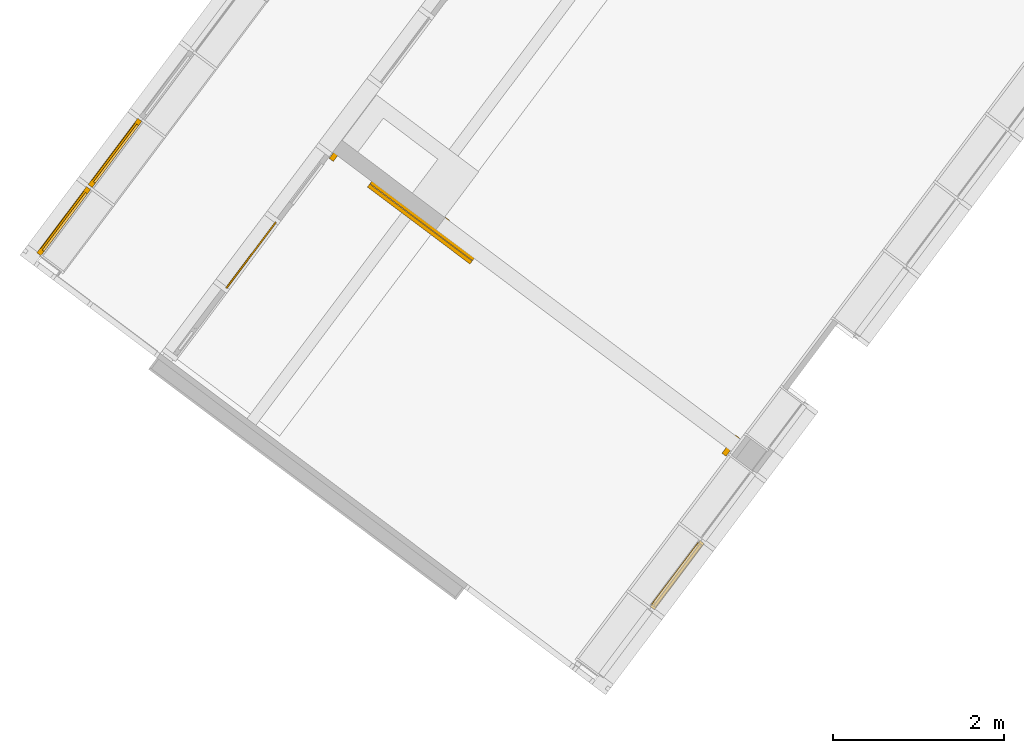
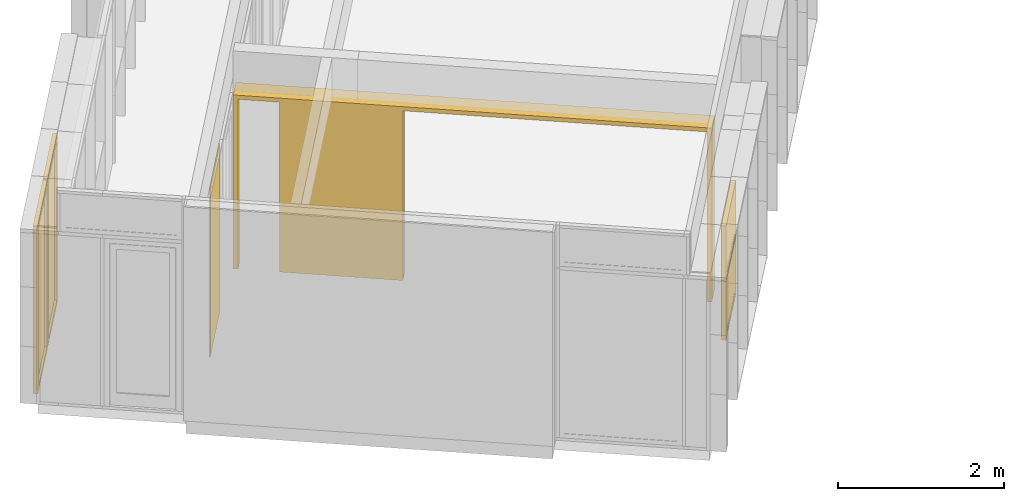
# One storey, part 178 of 243: 5 windows, 1 door, 3 elements without a shape of their own.
"""IFC2X3 building model written with IfcOpenShell, lengths in metres."""

from ifc_helpers import new_model, entity, si_unit, converted_unit, derived_unit, direction, frame, frame_2d, origin, origin_2d_with_axis, place, context, subcontext, project, spatial, polyline, rectangle, outline, extrude, faceted_brep, source, transform, mapped, material, material_list, type_object, type_shapes, element, aggregate, save


model = new_model("IFC2X3")

# Units and contexts
model_context = context("Model", 3, precision=1e-05, world=origin(), true_north=direction((6.123031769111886e-17, 1.0)))
body_context = subcontext(model_context, "Body", "Model", "MODEL_VIEW")
ifc_project = project(units=[si_unit("LENGTHUNIT", "METRE"), si_unit("AREAUNIT", "SQUARE_METRE"), si_unit("VOLUMEUNIT", "CUBIC_METRE"), converted_unit("PLANEANGLEUNIT", "DEGREE", entity("IfcRatioMeasure", 0.017453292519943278), si_unit("PLANEANGLEUNIT", "RADIAN"), dimensions=[0, 0, 0, 0, 0, 0, 0]), si_unit("MASSUNIT", "GRAM", prefix="KILO"), derived_unit("MASSDENSITYUNIT", [(si_unit("MASSUNIT", "GRAM", prefix="KILO"), 1), (si_unit("LENGTHUNIT", "METRE"), -3)]), derived_unit("IONCONCENTRATIONUNIT", [(si_unit("MASSUNIT", "GRAM", prefix="KILO"), 1), (si_unit("LENGTHUNIT", "METRE"), -3)]), derived_unit("MOMENTOFINERTIAUNIT", [(si_unit("LENGTHUNIT", "METRE"), 4)]), si_unit("TIMEUNIT", "SECOND"), si_unit("FREQUENCYUNIT", "HERTZ"), si_unit("THERMODYNAMICTEMPERATUREUNIT", "DEGREE_CELSIUS"), derived_unit("THERMALTRANSMITTANCEUNIT", [(si_unit("MASSUNIT", "GRAM", prefix="KILO"), 1), (si_unit("THERMODYNAMICTEMPERATUREUNIT", "KELVIN"), -1), (si_unit("TIMEUNIT", "SECOND"), -3)]), derived_unit("THERMALCONDUCTANCEUNIT", [(si_unit("MASSUNIT", "GRAM", prefix="KILO"), 1), (si_unit("THERMODYNAMICTEMPERATUREUNIT", "KELVIN"), -1), (si_unit("TIMEUNIT", "SECOND"), -3), (si_unit("LENGTHUNIT", "METRE"), 1)]), derived_unit("VOLUMETRICFLOWRATEUNIT", [(si_unit("LENGTHUNIT", "METRE"), 3), (si_unit("TIMEUNIT", "SECOND"), -1)]), derived_unit("MASSFLOWRATEUNIT", [(si_unit("MASSUNIT", "GRAM", prefix="KILO"), 1), (si_unit("TIMEUNIT", "SECOND"), -1)]), derived_unit("ROTATIONALFREQUENCYUNIT", [(si_unit("TIMEUNIT", "SECOND"), -1)]), si_unit("ELECTRICCURRENTUNIT", "AMPERE"), si_unit("ELECTRICVOLTAGEUNIT", "VOLT"), si_unit("POWERUNIT", "WATT"), si_unit("FORCEUNIT", "NEWTON", prefix="KILO"), si_unit("ILLUMINANCEUNIT", "LUX"), si_unit("LUMINOUSFLUXUNIT", "LUMEN"), si_unit("LUMINOUSINTENSITYUNIT", "CANDELA"), derived_unit("USERDEFINED", [(si_unit("MASSUNIT", "GRAM", prefix="KILO"), -1), (si_unit("LENGTHUNIT", "METRE"), -2), (si_unit("TIMEUNIT", "SECOND"), 3), (si_unit("LUMINOUSFLUXUNIT", "LUMEN"), 1)]), derived_unit("USERDEFINED", [(si_unit("MASSUNIT", "GRAM", prefix="KILO"), 1), (si_unit("TIMEUNIT", "SECOND"), -3), (si_unit("LENGTHUNIT", "METRE"), 3), (si_unit("ELECTRICCURRENTUNIT", "AMPERE"), -2)]), derived_unit("SOUNDPOWERUNIT", [(si_unit("MASSUNIT", "GRAM", prefix="KILO"), 1), (si_unit("TIMEUNIT", "SECOND"), -3), (si_unit("LENGTHUNIT", "METRE"), 2)]), derived_unit("SOUNDPRESSUREUNIT", [(si_unit("MASSUNIT", "GRAM", prefix="KILO"), 1), (si_unit("LENGTHUNIT", "METRE"), -1), (si_unit("TIMEUNIT", "SECOND"), -2)]), derived_unit("LINEARVELOCITYUNIT", [(si_unit("LENGTHUNIT", "METRE"), 1), (si_unit("TIMEUNIT", "SECOND"), -1)]), si_unit("PRESSUREUNIT", "PASCAL"), derived_unit("USERDEFINED", [(si_unit("MASSUNIT", "GRAM", prefix="KILO"), 1), (si_unit("LENGTHUNIT", "METRE"), -2), (si_unit("TIMEUNIT", "SECOND"), -2)]), derived_unit("LINEARFORCEUNIT", [(si_unit("MASSUNIT", "GRAM", prefix="KILO"), 1), (si_unit("TIMEUNIT", "SECOND"), -2)]), derived_unit("PLANARFORCEUNIT", [(si_unit("MASSUNIT", "GRAM", prefix="KILO"), 1), (si_unit("LENGTHUNIT", "METRE"), -1), (si_unit("TIMEUNIT", "SECOND"), -2)]), derived_unit("SPECIFICHEATCAPACITYUNIT", [(si_unit("THERMODYNAMICTEMPERATUREUNIT", "KELVIN"), -1), (si_unit("LENGTHUNIT", "METRE"), 2), (si_unit("TIMEUNIT", "SECOND"), -2)]), derived_unit("HEATINGVALUEUNIT", [(si_unit("LENGTHUNIT", "METRE"), 2), (si_unit("TIMEUNIT", "SECOND"), -2)]), derived_unit("VAPORPERMEABILITYUNIT", [(si_unit("LENGTHUNIT", "METRE"), -1), (si_unit("TIMEUNIT", "SECOND"), 1)]), derived_unit("DYNAMICVISCOSITYUNIT", [(si_unit("MASSUNIT", "GRAM", prefix="KILO"), 1), (si_unit("TIMEUNIT", "SECOND"), -1), (si_unit("LENGTHUNIT", "METRE"), -1)]), derived_unit("THERMALEXPANSIONCOEFFICIENTUNIT", [(si_unit("THERMODYNAMICTEMPERATUREUNIT", "KELVIN"), -1)]), derived_unit("MODULUSOFELASTICITYUNIT", [(si_unit("MASSUNIT", "GRAM", prefix="KILO"), 1), (si_unit("LENGTHUNIT", "METRE"), -1), (si_unit("TIMEUNIT", "SECOND"), -2)]), derived_unit("ISOTHERMALMOISTURECAPACITYUNIT", [(si_unit("LENGTHUNIT", "METRE"), 3), (si_unit("MASSUNIT", "GRAM", prefix="KILO"), -1)]), derived_unit("MOISTUREDIFFUSIVITYUNIT", [(si_unit("TIMEUNIT", "SECOND"), -1), (si_unit("LENGTHUNIT", "METRE"), 2)])], contexts=[model_context])

# Site, building, storey
site_placement = place(None, frame((0.0, 0.0, 235.0), z_axis=(0.0, 0.0, 1.0), x_axis=(-0.7996477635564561, 0.6004693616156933, 0.0)))
site = spatial("IfcSite", under=ifc_project, at=site_placement, Name="Default", CompositionType="ELEMENT")
building_placement = place(site_placement, origin())
building = spatial("IfcBuilding", under=site, at=building_placement, CompositionType="ELEMENT")
storey_placement = place(building_placement, origin())
storey = spatial("IfcBuildingStorey", under=building, at=storey_placement, Name="P0- Escola", CompositionType="ELEMENT", Elevation=0.0)

# Curtain wall, window
curtain_wall_type_1 = type_object("IfcCurtainWallType", Name="Muro cortina:MC- INT- a1", PredefinedType="NOTDEFINED")
curtain_wall_1_placement = place(storey_placement, origin())
curtain_wall_1 = element("IfcCurtainWall", 1, at=curtain_wall_1_placement, inside=storey, type_object=curtain_wall_type_1, Name="Muro cortina:MC- INT- a1", ObjectType="Muro cortina:MC- INT- a1")
ifc_material_1 = material(Name="_Vidre")
window_style_1 = type_object("IfcWindowStyle", Name="MC- Fusta- vidre fix:MC- Fusta- vidre fix", ConstructionType="NOTDEFINED", OperationType="NOTDEFINED", ParameterTakesPrecedence=False, Sizeable=False, material=ifc_material_1)
shared_shape_1 = source(origin(), body_context, "Body", "SweptSolid", [
    extrude(rectangle(XDim=0.9699999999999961, YDim=0.015999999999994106, at=origin_2d_with_axis()), frame((0.0, 0.0, 0.0), z_axis=(0.0, 0.0, 1.0), x_axis=(-1.0, 0.0, 0.0)), (0.0, 0.0, 1.0), 2.475),
])
type_shapes(window_style_1, [shared_shape_1])
window_1_placement = place(curtain_wall_1_placement, frame((72.72014768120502, -21.915189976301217, 0.045000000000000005), z_axis=(0.0, 0.0, 1.0), x_axis=(0.0, -1.0, 0.0)))
window_1 = element("IfcWindow", 2, at=window_1_placement, type_object=window_style_1, material=ifc_material_1, Name="MC- Fusta- vidre fix:MC- Fusta- vidre fix", ObjectType="MC- Fusta- vidre fix:MC- Fusta- vidre fix", OverallHeight=2.475, OverallWidth=0.9699999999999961, context=body_context, shape_type="MappedRepresentation", body=[
    mapped(shared_shape_1, transform((0.0, 0.0, 0.0), scale=1.0)),
])
aggregate(curtain_wall_1, [window_1])

# Curtain wall, windows
curtain_wall_type_2 = type_object("IfcCurtainWallType", Name="Muro cortina:MC- EXT- MC2", PredefinedType="NOTDEFINED")
curtain_wall_2_placement = place(storey_placement, origin())
curtain_wall_2 = element("IfcCurtainWall", 3, at=curtain_wall_2_placement, inside=storey, type_object=curtain_wall_type_2, Name="Muro cortina:MC- EXT- MC2", ObjectType="Muro cortina:MC- EXT- MC2")
ifc_material_2 = material(Name="_Alumini- T1- Perfil")
ifc_material_list = material_list([ifc_material_1, ifc_material_2])
window_style_2 = type_object("IfcWindowStyle", Name="MC- Alu- Conjunt finestra basculant- 68x68 cm:MC- Alu- Conjunt finestra basculant- 68x68 cm", ConstructionType="NOTDEFINED", OperationType="NOTDEFINED", ParameterTakesPrecedence=False, Sizeable=False, material=ifc_material_list)
shared_shape_2 = source(origin(), body_context, "Body", "Brep", [
    faceted_brep([(0.43291170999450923, -0.03559830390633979, 0.051999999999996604), (-0.43291170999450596, -0.03559830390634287, 0.051999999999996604), (-0.43291170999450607, -0.011598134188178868, 0.051999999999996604), (0.43291170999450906, -0.011598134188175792, 0.051999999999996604), (0.43291170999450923, -0.035598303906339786, 0.8228027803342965), (0.43291170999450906, -0.011598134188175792, 0.8228027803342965), (-0.43291170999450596, -0.011598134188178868, 0.8228027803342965), (-0.43291170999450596, -0.03559830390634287, 0.8228027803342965)], [[[0, 1, 2, 3]], [[4, 0, 3, 5]], [[5, 3, 2, 6]], [[6, 2, 1, 7]], [[7, 1, 0, 4]], [[4, 5, 6, 7]]]),
    faceted_brep([(-0.4172108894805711, -0.009998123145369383, 0.8071019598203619), (-0.4172108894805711, -0.00999812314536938, 0.06789804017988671), (-0.4172108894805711, -0.007998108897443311, 0.06789804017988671), (-0.4172108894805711, -0.007998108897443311, 0.8071019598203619), (-0.44610892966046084, -0.007998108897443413, 0.8360000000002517), (0.44610892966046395, -0.007998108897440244, 0.8360000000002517), (0.44610892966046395, -0.007998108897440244, 0.03899999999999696), (-0.44610892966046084, -0.007998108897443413, 0.03899999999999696), (0.4172108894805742, -0.007998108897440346, 0.8071019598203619), (0.4172108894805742, -0.007998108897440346, 0.06789804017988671), (0.4172108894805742, -0.009998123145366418, 0.06789804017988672), (0.4172108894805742, -0.009998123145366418, 0.8071019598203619), (0.4329117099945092, -0.00999812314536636, 0.8228027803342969), (-0.43291170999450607, -0.009998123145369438, 0.8228027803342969), (-0.43291170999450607, -0.009998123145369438, 0.05219721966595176), (0.4329117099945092, -0.00999812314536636, 0.052197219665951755), (-0.4329117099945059, -0.04079986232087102, 0.8228027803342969), (-0.4329117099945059, -0.04079986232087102, 0.052197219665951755), (0.4329117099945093, -0.04079986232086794, 0.05219721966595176), (0.4329117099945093, -0.04079986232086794, 0.8228027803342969), (0.41721088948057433, -0.040799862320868, 0.8071019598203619), (-0.41721088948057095, -0.04079986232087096, 0.8071019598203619), (-0.41721088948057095, -0.04079986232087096, 0.06789804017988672), (0.41721088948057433, -0.040799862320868, 0.06789804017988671), (-0.4172108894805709, -0.06800005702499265, 0.8071019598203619), (-0.4172108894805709, -0.06800005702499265, 0.06789804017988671), (0.4172108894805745, -0.0680000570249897, 0.06789804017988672), (0.4172108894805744, -0.0680000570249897, 0.8071019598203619), (0.4636128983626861, -0.06800005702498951, 0.8535039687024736), (-0.4636128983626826, -0.06800005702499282, 0.8535039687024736), (-0.4636128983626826, -0.06800005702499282, 0.021496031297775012), (0.4636128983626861, -0.06800005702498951, 0.021496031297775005), (-0.4636128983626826, -0.0645000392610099, 0.8535039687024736), (-0.4636128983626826, -0.06450003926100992, 0.021496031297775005), (0.4636128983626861, -0.06450003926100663, 0.021496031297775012), (0.4636128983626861, -0.06450003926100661, 0.8535039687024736), (0.44610892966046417, -0.06450003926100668, 0.8360000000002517), (-0.4461089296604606, -0.06450003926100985, 0.8360000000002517), (-0.4461089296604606, -0.06450003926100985, 0.03899999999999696), (0.44610892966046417, -0.06450003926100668, 0.038999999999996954)], [[[0, 1, 2, 3]], [[4, 5, 6, 7], [8, 3, 2, 9]], [[1, 10, 9, 2]], [[0, 11, 10, 1], [12, 13, 14, 15]], [[16, 17, 14, 13]], [[17, 18, 15, 14]], [[16, 19, 18, 17], [20, 21, 22, 23]], [[24, 25, 22, 21]], [[25, 26, 23, 22]], [[24, 27, 26, 25], [28, 29, 30, 31]], [[32, 33, 30, 29]], [[33, 34, 31, 30]], [[32, 35, 34, 33], [36, 37, 38, 39]], [[4, 7, 38, 37]], [[7, 6, 39, 38]], [[10, 11, 8, 9]], [[18, 19, 12, 15]], [[26, 27, 20, 23]], [[34, 35, 28, 31]], [[6, 5, 36, 39]], [[11, 0, 3, 8]], [[19, 16, 13, 12]], [[27, 24, 21, 20]], [[35, 32, 29, 28]], [[5, 4, 37, 36]]], outer=[[True], [True, False], [True], [False, True], [True], [True], [True, False], [True], [True], [False, True], [True], [True], [True, False], [True], [True], [True], [True], [True], [True], [True], [True], [True], [True], [True], [True]]),
    faceted_brep([(0.42219318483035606, 0.0, 0.8121931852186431), (0.42219318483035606, 0.0, 0.06280681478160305), (0.42219318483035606, -0.0040000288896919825, 0.06280681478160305), (0.42219318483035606, -0.0040000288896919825, 0.8121931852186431), (-0.42219318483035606, -0.0040000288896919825, 0.8121931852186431), (-0.42219318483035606, -0.0040000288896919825, 0.06280681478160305), (0.4575998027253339, -0.0040000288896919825, 0.8475998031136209), (-0.4575998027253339, -0.0040000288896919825, 0.8475998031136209), (-0.4575998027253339, -0.0040000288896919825, 0.027400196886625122), (0.4575998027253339, -0.0040000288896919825, 0.02740019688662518), (-0.42219318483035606, 0.0, 0.06280681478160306), (-0.42219318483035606, 0.0, 0.8121931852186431), (-0.48499999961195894, 0.0, 0.875000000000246), (0.48499999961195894, 0.0, 0.875000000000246), (0.48499999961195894, 0.0, 0.0), (-0.48499999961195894, 0.0, 0.0), (0.48499999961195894, -0.05999999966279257, 0.875000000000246), (0.48499999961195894, -0.05999999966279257, 0.0), (-0.48499999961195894, -0.05999999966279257, 0.0), (-0.48499999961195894, -0.05999999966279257, 0.875000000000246), (-0.4575998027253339, -0.05999999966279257, 0.8475998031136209), (0.4575998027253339, -0.05999999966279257, 0.8475998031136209), (0.4575998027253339, -0.05999999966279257, 0.027400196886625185), (-0.4575998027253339, -0.05999999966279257, 0.02740019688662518)], [[[0, 1, 2, 3]], [[4, 3, 2, 5], [6, 7, 8, 9]], [[1, 10, 5, 2]], [[0, 11, 10, 1], [12, 13, 14, 15]], [[16, 17, 14, 13]], [[17, 18, 15, 14]], [[16, 19, 18, 17], [20, 21, 22, 23]], [[6, 9, 22, 21]], [[9, 8, 23, 22]], [[10, 11, 4, 5]], [[18, 19, 12, 15]], [[8, 7, 20, 23]], [[11, 0, 3, 4]], [[19, 16, 13, 12]], [[7, 6, 21, 20]]], outer=[[True], [False, True], [True], [False, True], [True], [True], [True, False], [True], [True], [True], [True], [True], [True], [True], [True]]),
])
type_shapes(window_style_2, [shared_shape_2])
window_2_placement = place(curtain_wall_2_placement, frame((66.44514768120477, -21.915191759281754, 0.8200000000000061), z_axis=(0.0, 0.0, 1.0), x_axis=(0.0, 1.0, 0.0)))
window_2 = element("IfcWindow", 4, at=window_2_placement, type_object=window_style_2, material=ifc_material_list, Name="MC- Alu- Conjunt finestra basculant- 68x68 cm:MC- Alu- Conjunt finestra basculant- 68x68 cm", ObjectType="MC- Alu- Conjunt finestra basculant- 68x68 cm:MC- Alu- Conjunt finestra basculant- 68x68 cm", OverallHeight=0.8750000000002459, OverallWidth=0.9699999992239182, context=body_context, shape_type="MappedRepresentation", body=[
    mapped(shared_shape_2, transform((0.0, 0.0, 0.0), scale=1.0)),
])
window_style_3 = type_object("IfcWindowStyle", Name="MC- Alu- Conjunt finestra basculant- 68x68 cm:MC- Alu- Conjunt finestra basculant- 68x68 cm", ConstructionType="NOTDEFINED", OperationType="NOTDEFINED", ParameterTakesPrecedence=False, Sizeable=False, material=ifc_material_list)
shared_shape_3 = source(origin(), body_context, "Body", "Brep", [
    faceted_brep([(0.432911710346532, -0.03559830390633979, 0.051999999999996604), (-0.43291171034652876, -0.03559830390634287, 0.051999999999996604), (-0.4329117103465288, -0.011598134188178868, 0.051999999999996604), (0.43291171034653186, -0.011598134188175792, 0.051999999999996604), (0.432911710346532, -0.035598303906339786, 0.7565527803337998), (0.43291171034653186, -0.011598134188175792, 0.7565527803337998), (-0.43291171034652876, -0.011598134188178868, 0.7565527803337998), (-0.43291171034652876, -0.03559830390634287, 0.7565527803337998)], [[[0, 1, 2, 3]], [[4, 0, 3, 5]], [[5, 3, 2, 6]], [[6, 2, 1, 7]], [[7, 1, 0, 4]], [[4, 5, 6, 7]]]),
    faceted_brep([(-0.41721088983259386, -0.009998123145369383, 0.7408519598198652), (-0.41721088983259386, -0.00999812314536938, 0.06789804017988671), (-0.41721088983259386, -0.007998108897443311, 0.06789804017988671), (-0.41721088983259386, -0.007998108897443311, 0.7408519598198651), (-0.4461089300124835, -0.007998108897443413, 0.7697499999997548), (0.44610893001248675, -0.007998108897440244, 0.7697499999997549), (0.4461089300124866, -0.007998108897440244, 0.03899999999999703), (-0.44610893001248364, -0.007998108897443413, 0.03899999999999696), (0.41721088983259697, -0.007998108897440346, 0.7408519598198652), (0.41721088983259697, -0.007998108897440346, 0.06789804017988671), (0.41721088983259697, -0.009998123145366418, 0.06789804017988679), (0.41721088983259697, -0.009998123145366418, 0.7408519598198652), (0.4329117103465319, -0.00999812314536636, 0.7565527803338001), (-0.4329117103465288, -0.009998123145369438, 0.7565527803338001), (-0.4329117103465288, -0.009998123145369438, 0.05219721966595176), (0.4329117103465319, -0.00999812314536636, 0.052197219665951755), (-0.4329117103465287, -0.04079986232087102, 0.7565527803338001), (-0.4329117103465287, -0.04079986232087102, 0.052197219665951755), (0.4329117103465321, -0.04079986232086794, 0.05219721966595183), (0.4329117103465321, -0.04079986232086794, 0.7565527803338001), (0.41721088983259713, -0.040799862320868, 0.7408519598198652), (-0.41721088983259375, -0.04079986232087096, 0.7408519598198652), (-0.41721088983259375, -0.04079986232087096, 0.06789804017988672), (0.41721088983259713, -0.040799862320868, 0.06789804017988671), (-0.4172108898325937, -0.06800005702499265, 0.7408519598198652), (-0.4172108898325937, -0.06800005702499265, 0.06789804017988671), (0.41721088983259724, -0.0680000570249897, 0.06789804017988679), (0.4172108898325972, -0.0680000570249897, 0.7408519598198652), (0.4636128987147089, -0.06800005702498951, 0.7872539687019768), (-0.46361289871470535, -0.06800005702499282, 0.7872539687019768), (-0.46361289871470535, -0.06800005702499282, 0.021496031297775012), (0.4636128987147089, -0.06800005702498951, 0.021496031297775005), (-0.46361289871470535, -0.0645000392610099, 0.7872539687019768), (-0.46361289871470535, -0.06450003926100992, 0.021496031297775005), (0.4636128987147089, -0.06450003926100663, 0.02149603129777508), (0.4636128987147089, -0.06450003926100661, 0.7872539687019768), (0.4461089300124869, -0.06450003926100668, 0.7697499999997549), (-0.4461089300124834, -0.06450003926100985, 0.7697499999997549), (-0.4461089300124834, -0.06450003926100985, 0.03899999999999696), (0.4461089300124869, -0.06450003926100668, 0.038999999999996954)], [[[0, 1, 2, 3]], [[4, 5, 6, 7], [8, 3, 2, 9]], [[1, 10, 9, 2]], [[0, 11, 10, 1], [12, 13, 14, 15]], [[16, 17, 14, 13]], [[17, 18, 15, 14]], [[16, 19, 18, 17], [20, 21, 22, 23]], [[24, 25, 22, 21]], [[25, 26, 23, 22]], [[24, 27, 26, 25], [28, 29, 30, 31]], [[32, 33, 30, 29]], [[33, 34, 31, 30]], [[32, 35, 34, 33], [36, 37, 38, 39]], [[4, 7, 38, 37]], [[7, 6, 39, 38]], [[10, 11, 8, 9]], [[18, 19, 12, 15]], [[26, 27, 20, 23]], [[34, 35, 28, 31]], [[6, 5, 36, 39]], [[11, 0, 3, 8]], [[19, 16, 13, 12]], [[27, 24, 21, 20]], [[35, 32, 29, 28]], [[5, 4, 37, 36]]], outer=[[True], [True, False], [True], [False, True], [True], [True], [True, False], [True], [True], [False, True], [True], [True], [True, False], [True], [True], [True], [True], [True], [True], [True], [True], [True], [True], [True], [True]]),
    faceted_brep([(0.4221931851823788, 0.0, 0.7459431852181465), (0.4221931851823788, 0.0, 0.06280681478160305), (0.4221931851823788, -0.0040000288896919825, 0.06280681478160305), (0.4221931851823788, -0.0040000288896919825, 0.7459431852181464), (-0.4221931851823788, -0.0040000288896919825, 0.7459431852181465), (-0.4221931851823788, -0.0040000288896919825, 0.06280681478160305), (0.4575998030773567, -0.0040000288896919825, 0.7813498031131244), (-0.4575998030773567, -0.0040000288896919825, 0.7813498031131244), (-0.4575998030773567, -0.0040000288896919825, 0.027400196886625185), (0.4575998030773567, -0.0040000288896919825, 0.02740019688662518), (-0.4221931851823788, 0.0, 0.06280681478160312), (-0.4221931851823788, 0.0, 0.7459431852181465), (-0.48499999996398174, 0.0, 0.8087499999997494), (0.48499999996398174, 0.0, 0.8087499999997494), (0.48499999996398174, 0.0, 0.0), (-0.48499999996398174, 0.0, 0.0), (0.48499999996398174, -0.05999999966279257, 0.8087499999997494), (0.48499999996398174, -0.05999999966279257, 0.0), (-0.48499999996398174, -0.05999999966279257, 0.0), (-0.48499999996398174, -0.05999999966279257, 0.8087499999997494), (-0.4575998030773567, -0.05999999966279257, 0.7813498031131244), (0.4575998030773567, -0.05999999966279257, 0.7813498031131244), (0.4575998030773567, -0.05999999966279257, 0.027400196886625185), (-0.4575998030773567, -0.05999999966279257, 0.02740019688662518)], [[[0, 1, 2, 3]], [[4, 3, 2, 5], [6, 7, 8, 9]], [[1, 10, 5, 2]], [[0, 11, 10, 1], [12, 13, 14, 15]], [[16, 17, 14, 13]], [[17, 18, 15, 14]], [[16, 19, 18, 17], [20, 21, 22, 23]], [[6, 9, 22, 21]], [[9, 8, 23, 22]], [[10, 11, 4, 5]], [[18, 19, 12, 15]], [[8, 7, 20, 23]], [[11, 0, 3, 4]], [[19, 16, 13, 12]], [[7, 6, 21, 20]]], outer=[[True], [False, True], [True], [False, True], [True], [True], [True, False], [True], [True], [True], [True], [True], [True], [True], [True]]),
])
type_shapes(window_style_3, [shared_shape_3])
window_3_placement = place(curtain_wall_2_placement, frame((66.44514768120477, -21.915191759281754, 1.6950000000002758), z_axis=(0.0, 0.0, 1.0), x_axis=(0.0, 1.0, 0.0)))
window_3 = element("IfcWindow", 5, at=window_3_placement, type_object=window_style_3, material=ifc_material_list, Name="MC- Alu- Conjunt finestra basculant- 68x68 cm:MC- Alu- Conjunt finestra basculant- 68x68 cm", ObjectType="MC- Alu- Conjunt finestra basculant- 68x68 cm:MC- Alu- Conjunt finestra basculant- 68x68 cm", OverallHeight=0.8087499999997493, OverallWidth=0.9699999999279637, context=body_context, shape_type="MappedRepresentation", body=[
    mapped(shared_shape_3, transform((0.0, 0.0, 0.0), scale=1.0)),
])
aggregate(curtain_wall_2, [window_2, window_3])

curtain_wall_type_3 = type_object("IfcCurtainWallType", Name="Muro cortina:MC- EXT- MC5", PredefinedType="NOTDEFINED")
curtain_wall_3_placement = place(storey_placement, origin())
curtain_wall_3 = element("IfcCurtainWall", 6, at=curtain_wall_3_placement, inside=storey, type_object=curtain_wall_type_3, Name="Muro cortina:MC- EXT- MC5", ObjectType="Muro cortina:MC- EXT- MC5")
window_style_4 = type_object("IfcWindowStyle", Name="MC- Alu- Conjunt vidre fix- 62x60 cm:MC- Alu- Conjunt vidre fix- 62x60 cm", ConstructionType="NOTDEFINED", OperationType="NOTDEFINED", ParameterTakesPrecedence=False, Sizeable=False, material=ifc_material_list)
shared_shape_4 = source(origin(), body_context, "Body", "Brep", [
    faceted_brep([(-0.43619328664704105, -0.007600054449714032, 0.048806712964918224), (0.43619328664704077, -0.007600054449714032, 0.048806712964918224), (0.43619328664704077, -0.03160022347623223, 0.048806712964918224), (-0.43619328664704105, -0.03160022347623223, 0.048806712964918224), (-0.43619328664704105, -0.007600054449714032, 2.422449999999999), (0.43619328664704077, -0.007600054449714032, 2.422449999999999), (0.43619328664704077, -0.03160022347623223, 2.422449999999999), (-0.43619328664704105, -0.03160022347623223, 2.422449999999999)], [[[0, 1, 2, 3]], [[4, 5, 1, 0]], [[5, 6, 2, 1]], [[6, 7, 3, 2]], [[7, 4, 0, 3]], [[4, 7, 6, 5]]]),
    faceted_brep([(-0.4849999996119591, -0.05999999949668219, 2.471449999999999), (-0.4849999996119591, 0.0, 2.471449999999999), (-0.4849999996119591, 0.0, 0.0), (-0.48499999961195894, -0.05999999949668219, 0.0), (-0.4221931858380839, 0.0, 2.408643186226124), (-0.4221931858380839, 0.0, 0.06280681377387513), (0.42219318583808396, 0.0, 0.06280681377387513), (0.422193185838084, 0.0, 2.408643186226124), (0.4849999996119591, 0.0, 2.471449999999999), (0.4849999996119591, 0.0, 0.0), (0.48499999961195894, -0.05999999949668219, 0.0), (0.4849999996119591, -0.05999999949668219, 2.471449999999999), (0.42219603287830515, -0.05999999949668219, 2.408646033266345), (0.42219603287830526, -0.05999999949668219, 0.06280396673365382), (-0.42219603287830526, -0.05999999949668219, 0.06280396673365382), (-0.42219603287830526, -0.05999999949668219, 2.4086460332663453), (-0.42219603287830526, -0.03160022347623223, 2.4086460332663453), (-0.4221960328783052, -0.03160022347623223, 0.06280396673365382), (0.4221960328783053, -0.03160022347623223, 0.06280396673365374), (0.42219603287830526, -0.03160022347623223, 2.4086460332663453), (0.43619328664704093, -0.03160022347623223, 2.422643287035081), (0.43619328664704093, -0.03160022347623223, 0.048806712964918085), (-0.4361932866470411, -0.03160022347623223, 0.04880671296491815), (-0.43619328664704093, -0.03160022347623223, 2.422643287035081), (-0.43619328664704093, -0.007600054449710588, 2.422643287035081), (-0.4361932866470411, -0.007600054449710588, 0.04880671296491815), (0.43619328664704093, -0.007600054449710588, 0.048806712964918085), (0.43619328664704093, -0.007600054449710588, 2.422643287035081), (0.42219318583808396, -0.007600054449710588, 2.408643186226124), (0.42219318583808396, -0.007600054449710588, 0.06280681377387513), (-0.42219318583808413, -0.007600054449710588, 0.06280681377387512), (-0.4221931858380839, -0.007600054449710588, 2.408643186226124)], [[[0, 1, 2, 3]], [[4, 5, 6, 7], [8, 9, 2, 1]], [[3, 2, 9, 10]], [[0, 3, 10, 11], [12, 13, 14, 15]], [[16, 15, 14, 17]], [[17, 14, 13, 18]], [[16, 17, 18, 19], [20, 21, 22, 23]], [[24, 23, 22, 25]], [[25, 22, 21, 26]], [[24, 25, 26, 27], [28, 29, 30, 31]], [[4, 31, 30, 5]], [[5, 30, 29, 6]], [[10, 9, 8, 11]], [[18, 13, 12, 19]], [[26, 21, 20, 27]], [[6, 29, 28, 7]], [[11, 8, 1, 0]], [[19, 12, 15, 16]], [[27, 20, 23, 24]], [[7, 28, 31, 4]]], outer=[[True], [False, True], [True], [True, False], [True], [True], [False, True], [True], [True], [True, False], [True], [True], [True], [True], [True], [True], [True], [True], [True], [True]]),
])
type_shapes(window_style_4, [shared_shape_4])
window_4_placement = place(curtain_wall_3_placement, frame((74.7451476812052, -20.91519175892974, 0.03229999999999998), z_axis=(0.0, 0.0, 1.0), x_axis=(0.0, -1.0, 0.0)))
window_4 = element("IfcWindow", 7, at=window_4_placement, type_object=window_style_4, material=ifc_material_list, Name="MC- Alu- Conjunt vidre fix- 62x60 cm:MC- Alu- Conjunt vidre fix- 62x60 cm", ObjectType="MC- Alu- Conjunt vidre fix- 62x60 cm:MC- Alu- Conjunt vidre fix- 62x60 cm", OverallHeight=2.471449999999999, OverallWidth=0.9699999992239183, context=body_context, shape_type="MappedRepresentation", body=[
    mapped(shared_shape_4, transform((0.0, 0.0, 0.0), scale=1.0)),
])
window_5_placement = place(curtain_wall_3_placement, frame((74.7451476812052, -21.91519175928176, 0.03229999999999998), z_axis=(0.0, 0.0, 1.0), x_axis=(0.0, -1.0, 0.0)))
window_5 = element("IfcWindow", 8, at=window_5_placement, type_object=window_style_4, material=ifc_material_list, Name="MC- Alu- Conjunt vidre fix- 62x60 cm:MC- Alu- Conjunt vidre fix- 62x60 cm", ObjectType="MC- Alu- Conjunt vidre fix- 62x60 cm:MC- Alu- Conjunt vidre fix- 62x60 cm", OverallHeight=2.471449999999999, OverallWidth=0.9699999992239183, context=body_context, shape_type="MappedRepresentation", body=[
    mapped(shared_shape_4, transform((0.0, 0.0, 0.0), scale=1.0)),
])
aggregate(curtain_wall_3, [window_4, window_5])

# Door
ifc_material_3 = material(Name="_Fusta massisa- T1")
door_style = type_object("IfcDoorStyle", Name="FUS- Porta fusta- Corredera- 3 fulles:FUS- Porta fusta- Corredera- 3 fulles", ConstructionType="NOTDEFINED", OperationType="NOTDEFINED", ParameterTakesPrecedence=False, Sizeable=False, material=ifc_material_3)
shared_shape_5 = source(origin(), body_context, "Body", "SweptSolid", [
    extrude(rectangle(XDim=1.5024455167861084, YDim=0.04499999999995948, at=origin_2d_with_axis()), frame((4.503943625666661, 0.14449999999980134, 0.0)), (0.0, 0.0, 1.0), 2.500000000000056),
    extrude(rectangle(XDim=0.04499999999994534, YDim=1.5024455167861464, at=frame_2d((-1.734723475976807e-17, 0.0), x_axis=(1.0, 0.0))), frame((4.503943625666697, 0.2445000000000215, 0.0), z_axis=(0.0, 0.0, 1.0), x_axis=(0.0, -1.0, 0.0)), (0.0, 0.0, 1.0), 2.500000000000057),
    extrude(rectangle(XDim=0.044999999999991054, YDim=1.5024455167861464, at=origin_2d_with_axis()), frame((4.503943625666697, 0.19450000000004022, 0.0), z_axis=(0.0, 0.0, 1.0), x_axis=(0.0, -1.0, 0.0)), (0.0, 0.0, 1.0), 2.5000000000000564),
    extrude(rectangle(XDim=0.15000000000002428, YDim=0.060000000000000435, at=frame_2d((1.3877787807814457e-17, -5.412337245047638e-16), x_axis=(1.0, 0.0))), frame((5.785166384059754, 0.19199999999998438, 0.0), z_axis=(0.0, 0.0, 1.0), x_axis=(0.0, 1.0, 0.0)), (0.0, 0.0, 1.0), 2.559999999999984),
    extrude(rectangle(XDim=0.059999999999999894, YDim=0.1170000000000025, at=frame_2d((2.706168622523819e-16, 0.0), x_axis=(1.0, 0.0))), frame((4.28272086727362, 0.05849999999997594, 0.0), z_axis=(0.0, 0.0, 1.0), x_axis=(-1.0, 0.0, 0.0)), (0.0, 0.0, 1.0), 2.559999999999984),
    extrude(outline(polyline([(-1.6866666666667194, -1.9583887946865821), (0.8733333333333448, -1.9583887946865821), (0.8733333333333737, 3.856777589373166), (0.8133333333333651, 3.856777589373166), (0.813333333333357, -1.8983887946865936), (-1.6866666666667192, -1.8983887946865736), (-1.6866666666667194, -1.9583887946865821)])), frame((1.9583887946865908, 0.0, 1.6866666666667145), z_axis=(0.0, 1.0, 0.0), x_axis=(0.0, 0.0, 1.0)), (0.0, 0.0, 1.0), 0.26700000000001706),
])
type_shapes(door_style, [shared_shape_5])
door_placement = place(storey_placement, frame((66.85417144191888, -23.63868997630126, 0.0)))
element("IfcDoor", 9, at=door_placement, inside=storey, type_object=door_style, material=ifc_material_3, Name="FUS- Porta fusta- Corredera- 3 fulles:FUS- Porta fusta- Corredera- 3 fulles", ObjectType="FUS- Porta fusta- Corredera- 3 fulles:FUS- Porta fusta- Corredera- 3 fulles", OverallHeight=2.5600000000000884, OverallWidth=5.815166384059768, context=body_context, shape_type="MappedRepresentation", body=[
    mapped(shared_shape_5, transform((0.0, 0.0, 0.0), scale=1.0)),
])

save(model, "model.ifc")
